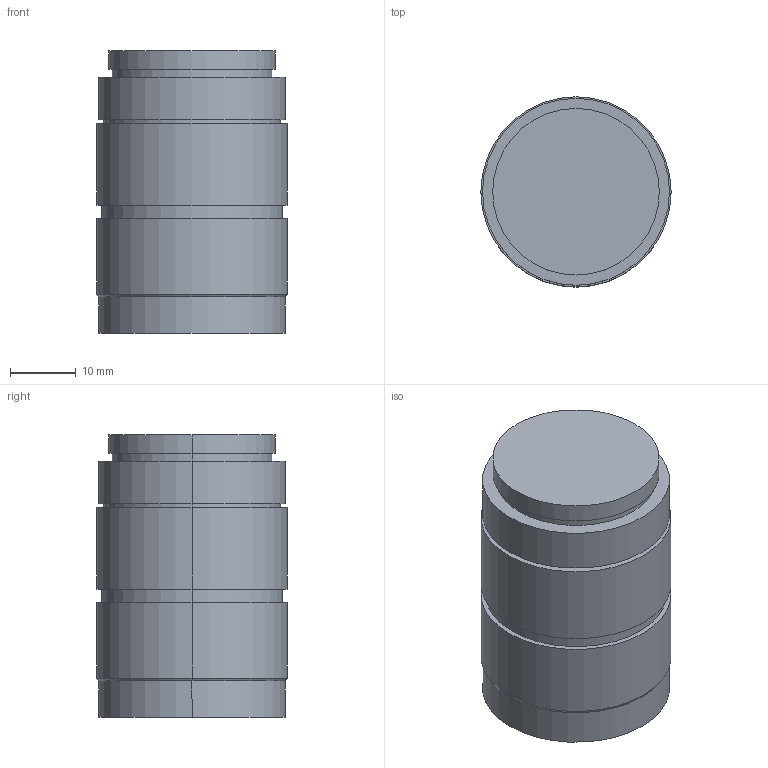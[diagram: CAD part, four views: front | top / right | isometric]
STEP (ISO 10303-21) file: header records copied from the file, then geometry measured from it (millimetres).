
FILE_DESCRIPTION (( 'STEP AP203' ), '1' );
FILE_NAME ('YF8DA.STEP', '2017-07-19T08:12:28', ( '富士フイルム株式会社' ), ( '富士フイルム株式会社' ), 'SwSTEP 2.0', 'SolidWorks 2014', '' );
FILE_SCHEMA (( 'CONFIG_CONTROL_DESIGN' ));
Length unit declared in the file: millimetre
Products named in the file (1): YF8DA
Bounding box: 29 x 29 x 43.01 mm (x, y, z)
Volume: 24969.3 mm3; surface area: 6374.8 mm2
Topology: 1 solids, 1 shells, 68 faces, 136 edges, 85 vertices
Faces by surface type: cylinder 34, cone 16, plane 16, sphere 2
Entity records: 1867 total; most frequent: DIRECTION 360, CARTESIAN_POINT 290, ORIENTED_EDGE 272, AXIS2_PLACEMENT_3D 155, EDGE_CURVE 136, CIRCLE 86, VERTEX_POINT 85, EDGE_LOOP 83
